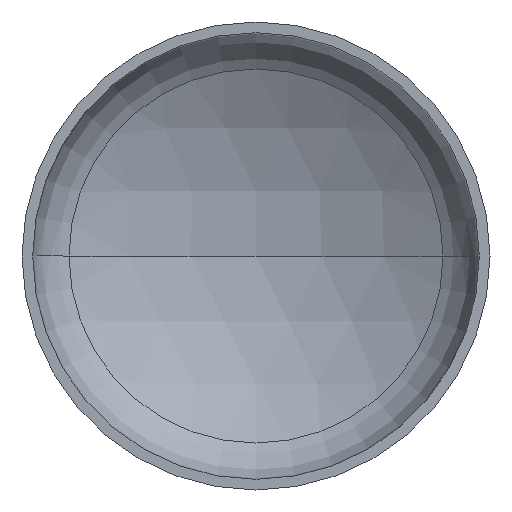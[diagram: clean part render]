
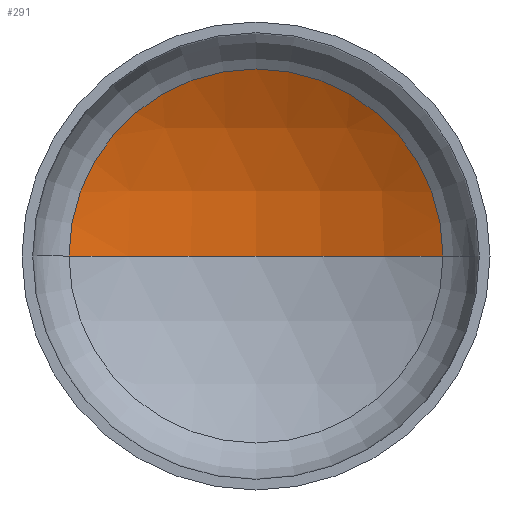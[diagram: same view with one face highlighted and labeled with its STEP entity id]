
A CAD part, front view. The second image highlights one B-rep face of the part: STEP entity #291.
In plain terms, the highlighted spherical face has radius 175 mm.
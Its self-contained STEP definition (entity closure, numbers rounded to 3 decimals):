
#9 = EDGE_LOOP ( 'NONE', ( #206, #133, #26 ) ) ;
#13 = AXIS2_PLACEMENT_3D ( 'NONE', #382, #50, #252 ) ;
#14 = AXIS2_PLACEMENT_3D ( 'NONE', #225, #383, #317 ) ;
#23 = AXIS2_PLACEMENT_3D ( 'NONE', #121, #113, #120 ) ;
#26 = ORIENTED_EDGE ( 'NONE', *, *, #350, .T. ) ;
#32 = AXIS2_PLACEMENT_3D ( 'NONE', #189, #250, #248 ) ;
#38 = VERTEX_POINT ( 'NONE', #245 ) ;
#50 = DIRECTION ( 'NONE',  ( 0., 0., -1. ) ) ;
#113 = DIRECTION ( 'NONE',  ( 0., 0., 1. ) ) ;
#120 = DIRECTION ( 'NONE',  ( 1., 0., 0. ) ) ;
#121 = CARTESIAN_POINT ( 'NONE',  ( 0., -102.081, 0. ) ) ;
#133 = ORIENTED_EDGE ( 'NONE', *, *, #355, .T. ) ;
#138 = VERTEX_POINT ( 'NONE', #290 ) ;
#189 = CARTESIAN_POINT ( 'NONE',  ( 0., -102.081, 0. ) ) ;
#206 = ORIENTED_EDGE ( 'NONE', *, *, #331, .F. ) ;
#217 = CIRCLE ( 'NONE', #13, 175. ) ;
#225 = CARTESIAN_POINT ( 'NONE',  ( 0., 49.438, 0. ) ) ;
#231 = VERTEX_POINT ( 'NONE', #273 ) ;
#245 = CARTESIAN_POINT ( 'NONE',  ( -87.562, 49.438, 0. ) ) ;
#248 = DIRECTION ( 'NONE',  ( -1., 0., 0. ) ) ;
#250 = DIRECTION ( 'NONE',  ( 0., 0., -1. ) ) ;
#252 = DIRECTION ( 'NONE',  ( -1., 0., 0. ) ) ;
#273 = CARTESIAN_POINT ( 'NONE',  ( 87.562, 49.438, 0. ) ) ;
#277 = CIRCLE ( 'NONE', #14, 87.562 ) ;
#284 = CIRCLE ( 'NONE', #23, 175. ) ;
#290 = CARTESIAN_POINT ( 'NONE',  ( 0., 72.919, 0. ) ) ;
#291 = ADVANCED_FACE ( 'NONE', ( #357 ), #299, .F. ) ;
#299 = SPHERICAL_SURFACE ( 'NONE', #32, 175. ) ;
#317 = DIRECTION ( 'NONE',  ( 1., 0., 0. ) ) ;
#331 = EDGE_CURVE ( 'NONE', #138, #38, #284, .T. ) ;
#350 = EDGE_CURVE ( 'NONE', #231, #38, #277, .T. ) ;
#355 = EDGE_CURVE ( 'NONE', #138, #231, #217, .T. ) ;
#357 = FACE_OUTER_BOUND ( 'NONE', #9, .T. ) ;
#382 = CARTESIAN_POINT ( 'NONE',  ( 0., -102.081, 0. ) ) ;
#383 = DIRECTION ( 'NONE',  ( 0., -1., 0. ) ) ;
